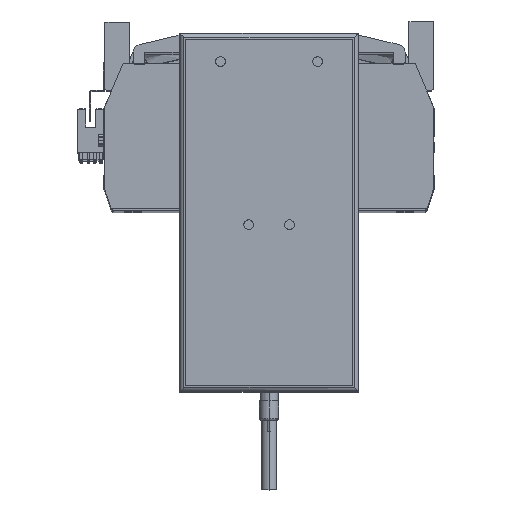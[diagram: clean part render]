
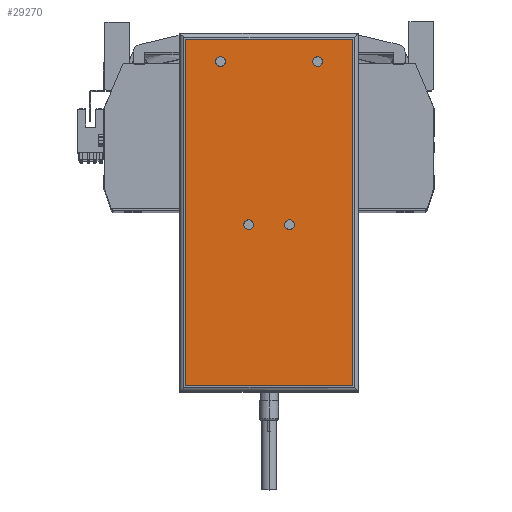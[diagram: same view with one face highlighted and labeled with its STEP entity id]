
A CAD part, top view. The second image highlights one B-rep face of the part: STEP entity #29270.
In plain terms, the highlighted planar face has unit normal (0, 0, 1) as drawn and (0, 0, -1) by its records, which use the part's own axes.
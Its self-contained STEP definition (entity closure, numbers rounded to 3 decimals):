
#241 = FACE_OUTER_BOUND ( 'NONE', #49150, .T. ) ;
#582 = CARTESIAN_POINT ( 'NONE',  ( 8., -6.25, 0. ) ) ;
#704 = DIRECTION ( 'NONE',  ( 0., 0., -1. ) ) ;
#1090 = CARTESIAN_POINT ( 'NONE',  ( -43., 89.25, 0. ) ) ;
#2120 = ORIENTED_EDGE ( 'NONE', *, *, #20250, .F. ) ;
#2386 = EDGE_LOOP ( 'NONE', ( #2120, #34432 ) ) ;
#2563 = ORIENTED_EDGE ( 'NONE', *, *, #14417, .F. ) ;
#3234 = FACE_BOUND ( 'NONE', #26196, .T. ) ;
#3623 = VERTEX_POINT ( 'NONE', #34651 ) ;
#3965 = AXIS2_PLACEMENT_3D ( 'NONE', #42501, #30563, #50320 ) ;
#4422 = CARTESIAN_POINT ( 'NONE',  ( -43., -92.25, 0. ) ) ;
#4451 = CARTESIAN_POINT ( 'NONE',  ( -22.5, 77.75, 0. ) ) ;
#5107 = EDGE_CURVE ( 'NONE', #31316, #12031, #25014, .T. ) ;
#6139 = EDGE_LOOP ( 'NONE', ( #25061, #26588 ) ) ;
#6336 = VERTEX_POINT ( 'NONE', #30405 ) ;
#6505 = CARTESIAN_POINT ( 'NONE',  ( -46., 89.25, 0. ) ) ;
#6587 = ORIENTED_EDGE ( 'NONE', *, *, #27262, .T. ) ;
#6763 = CIRCLE ( 'NONE', #25040, 2.5 ) ;
#7069 = CARTESIAN_POINT ( 'NONE',  ( 25., 77.75, 0. ) ) ;
#7276 = EDGE_CURVE ( 'NONE', #24028, #31316, #20161, .T. ) ;
#8029 = EDGE_CURVE ( 'NONE', #22207, #36639, #6763, .T. ) ;
#8304 = EDGE_CURVE ( 'NONE', #36639, #22207, #14150, .T. ) ;
#8910 = LINE ( 'NONE', #19754, #33255 ) ;
#9127 = EDGE_CURVE ( 'NONE', #15973, #6336, #44451, .T. ) ;
#9544 = ORIENTED_EDGE ( 'NONE', *, *, #38140, .F. ) ;
#9670 = CARTESIAN_POINT ( 'NONE',  ( -27.5, 77.75, 0. ) ) ;
#10022 = AXIS2_PLACEMENT_3D ( 'NONE', #24224, #32407, #28169 ) ;
#11817 = DIRECTION ( 'NONE',  ( 0., -1., 0. ) ) ;
#12031 = VERTEX_POINT ( 'NONE', #34917 ) ;
#12266 = AXIS2_PLACEMENT_3D ( 'NONE', #49050, #49563, #25669 ) ;
#13807 = ORIENTED_EDGE ( 'NONE', *, *, #5107, .T. ) ;
#14150 = CIRCLE ( 'NONE', #47637, 2.5 ) ;
#14392 = DIRECTION ( 'NONE',  ( -1., 0., 0. ) ) ;
#14417 = EDGE_CURVE ( 'NONE', #31219, #36803, #18436, .T. ) ;
#15337 = VECTOR ( 'NONE', #16612, 1000. ) ;
#15973 = VERTEX_POINT ( 'NONE', #20687 ) ;
#16539 = FACE_BOUND ( 'NONE', #6139, .T. ) ;
#16581 = CARTESIAN_POINT ( 'NONE',  ( -25., 77.75, 0. ) ) ;
#16612 = DIRECTION ( 'NONE',  ( 0., 1., 0. ) ) ;
#17686 = PLANE ( 'NONE',  #12266 ) ;
#18436 = CIRCLE ( 'NONE', #42937, 2.5 ) ;
#18531 = DIRECTION ( 'NONE',  ( 0., 0., -1. ) ) ;
#19035 = CIRCLE ( 'NONE', #46960, 2.5 ) ;
#19616 = FACE_BOUND ( 'NONE', #26293, .T. ) ;
#19754 = CARTESIAN_POINT ( 'NONE',  ( 43., -92.25, 0. ) ) ;
#20161 = LINE ( 'NONE', #4422, #15337 ) ;
#20250 = EDGE_CURVE ( 'NONE', #3623, #33844, #37991, .T. ) ;
#20474 = DIRECTION ( 'NONE',  ( -1., 0., 0. ) ) ;
#20687 = CARTESIAN_POINT ( 'NONE',  ( -13., -6.25, 0. ) ) ;
#21812 = CARTESIAN_POINT ( 'NONE',  ( 13., -6.25, 0. ) ) ;
#21933 = CARTESIAN_POINT ( 'NONE',  ( 43., -89.25, 0. ) ) ;
#22207 = VERTEX_POINT ( 'NONE', #21812 ) ;
#23254 = EDGE_CURVE ( 'NONE', #36803, #31219, #23632, .T. ) ;
#23632 = CIRCLE ( 'NONE', #39458, 2.5 ) ;
#24028 = VERTEX_POINT ( 'NONE', #48093 ) ;
#24224 = CARTESIAN_POINT ( 'NONE',  ( -10.5, -6.25, 0. ) ) ;
#25014 = LINE ( 'NONE', #6505, #29914 ) ;
#25040 = AXIS2_PLACEMENT_3D ( 'NONE', #27043, #31000, #27215 ) ;
#25061 = ORIENTED_EDGE ( 'NONE', *, *, #8304, .F. ) ;
#25488 = VERTEX_POINT ( 'NONE', #21933 ) ;
#25669 = DIRECTION ( 'NONE',  ( 1., 0., 0. ) ) ;
#26196 = EDGE_LOOP ( 'NONE', ( #42468, #9544 ) ) ;
#26293 = EDGE_LOOP ( 'NONE', ( #45920, #2563 ) ) ;
#26588 = ORIENTED_EDGE ( 'NONE', *, *, #8029, .F. ) ;
#26655 = EDGE_CURVE ( 'NONE', #12031, #25488, #8910, .T. ) ;
#27043 = CARTESIAN_POINT ( 'NONE',  ( 10.5, -6.25, 0. ) ) ;
#27048 = LINE ( 'NONE', #36711, #43532 ) ;
#27215 = DIRECTION ( 'NONE',  ( -1., 0., 0. ) ) ;
#27262 = EDGE_CURVE ( 'NONE', #25488, #24028, #27048, .T. ) ;
#28169 = DIRECTION ( 'NONE',  ( -1., 0., 0. ) ) ;
#29270 = ADVANCED_FACE ( 'NONE', ( #241, #3234, #16539, #19616, #36689 ), #17686, .F. ) ;
#29687 = DIRECTION ( 'NONE',  ( 0., 0., -1. ) ) ;
#29914 = VECTOR ( 'NONE', #49232, 1000. ) ;
#30405 = CARTESIAN_POINT ( 'NONE',  ( -8., -6.25, 0. ) ) ;
#30542 = ORIENTED_EDGE ( 'NONE', *, *, #7276, .T. ) ;
#30563 = DIRECTION ( 'NONE',  ( 0., 0., -1. ) ) ;
#31000 = DIRECTION ( 'NONE',  ( 0., 0., -1. ) ) ;
#31219 = VERTEX_POINT ( 'NONE', #4451 ) ;
#31316 = VERTEX_POINT ( 'NONE', #1090 ) ;
#32407 = DIRECTION ( 'NONE',  ( 0., 0., -1. ) ) ;
#32796 = DIRECTION ( 'NONE',  ( -1., 0., 0. ) ) ;
#33255 = VECTOR ( 'NONE', #11817, 1000. ) ;
#33499 = CARTESIAN_POINT ( 'NONE',  ( 25., 77.75, 0. ) ) ;
#33779 = CIRCLE ( 'NONE', #10022, 2.5 ) ;
#33844 = VERTEX_POINT ( 'NONE', #47893 ) ;
#34218 = DIRECTION ( 'NONE',  ( -1., 0., 0. ) ) ;
#34432 = ORIENTED_EDGE ( 'NONE', *, *, #39427, .F. ) ;
#34651 = CARTESIAN_POINT ( 'NONE',  ( 22.5, 77.75, 0. ) ) ;
#34917 = CARTESIAN_POINT ( 'NONE',  ( 43., 89.25, 0. ) ) ;
#36619 = ORIENTED_EDGE ( 'NONE', *, *, #26655, .T. ) ;
#36639 = VERTEX_POINT ( 'NONE', #582 ) ;
#36689 = FACE_BOUND ( 'NONE', #2386, .T. ) ;
#36711 = CARTESIAN_POINT ( 'NONE',  ( -46., -89.25, 0. ) ) ;
#36803 = VERTEX_POINT ( 'NONE', #9670 ) ;
#37597 = DIRECTION ( 'NONE',  ( 0., 0., -1. ) ) ;
#37991 = CIRCLE ( 'NONE', #46260, 2.5 ) ;
#38140 = EDGE_CURVE ( 'NONE', #6336, #15973, #33779, .T. ) ;
#39427 = EDGE_CURVE ( 'NONE', #33844, #3623, #19035, .T. ) ;
#39458 = AXIS2_PLACEMENT_3D ( 'NONE', #16581, #43853, #20474 ) ;
#39761 = DIRECTION ( 'NONE',  ( -1., 0., 0. ) ) ;
#41173 = DIRECTION ( 'NONE',  ( -1., 0., 0. ) ) ;
#42239 = CARTESIAN_POINT ( 'NONE',  ( -25., 77.75, 0. ) ) ;
#42468 = ORIENTED_EDGE ( 'NONE', *, *, #9127, .F. ) ;
#42501 = CARTESIAN_POINT ( 'NONE',  ( -10.5, -6.25, 0. ) ) ;
#42937 = AXIS2_PLACEMENT_3D ( 'NONE', #42239, #18531, #34218 ) ;
#43532 = VECTOR ( 'NONE', #32796, 1000. ) ;
#43853 = DIRECTION ( 'NONE',  ( 0., 0., -1. ) ) ;
#44451 = CIRCLE ( 'NONE', #3965, 2.5 ) ;
#45920 = ORIENTED_EDGE ( 'NONE', *, *, #23254, .F. ) ;
#46260 = AXIS2_PLACEMENT_3D ( 'NONE', #33499, #37597, #41173 ) ;
#46960 = AXIS2_PLACEMENT_3D ( 'NONE', #7069, #29687, #14392 ) ;
#47304 = CARTESIAN_POINT ( 'NONE',  ( 10.5, -6.25, 0. ) ) ;
#47637 = AXIS2_PLACEMENT_3D ( 'NONE', #47304, #704, #39761 ) ;
#47893 = CARTESIAN_POINT ( 'NONE',  ( 27.5, 77.75, 0. ) ) ;
#48093 = CARTESIAN_POINT ( 'NONE',  ( -43., -89.25, 0. ) ) ;
#49050 = CARTESIAN_POINT ( 'NONE',  ( -46., -92.25, 0. ) ) ;
#49150 = EDGE_LOOP ( 'NONE', ( #36619, #6587, #30542, #13807 ) ) ;
#49232 = DIRECTION ( 'NONE',  ( 1., 0., 0. ) ) ;
#49563 = DIRECTION ( 'NONE',  ( 0., 0., 1. ) ) ;
#50320 = DIRECTION ( 'NONE',  ( -1., 0., 0. ) ) ;
